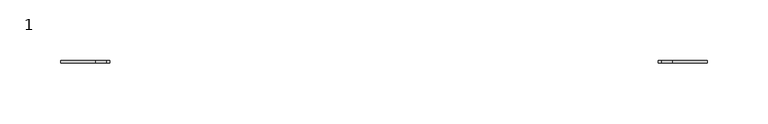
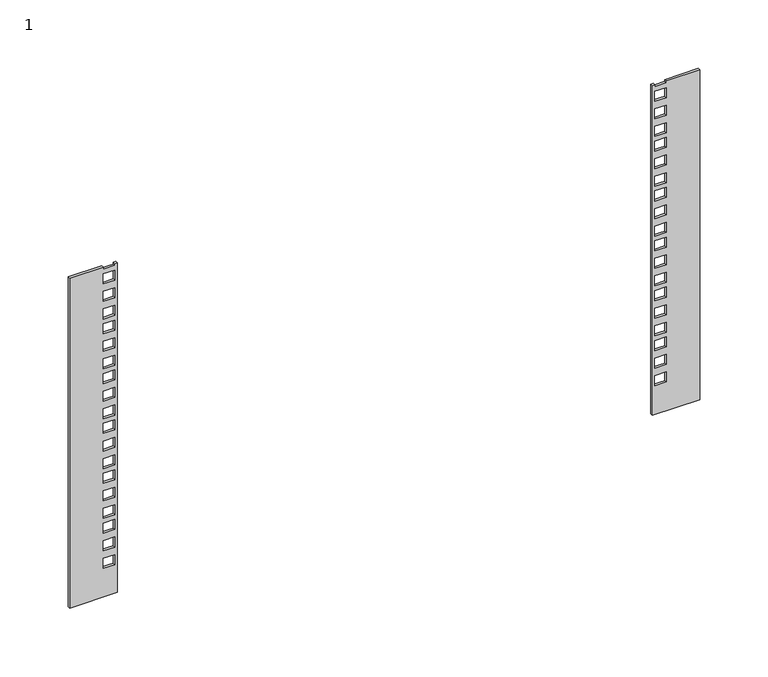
"""IFC4 building model written with IfcOpenShell, lengths in millimetres: proxy geometry, 1 : 6U 600мм стеклянная дверь."""

from ifc_helpers import new_model, si_unit, frame, origin, place, context, project, spatial, polyline, outline, extrude, source, transform, mapped, element, save


def proxy_1_e2e02f15(model_context):
    return source(origin(), model_context, "Body", "SweptSolid", [
        extrude(outline(polyline([(20.4675, 225.3), (20.4675, 265.3), (314.4675, 265.3), (314.4675, 237.05), (312.7675, 237.05), (312.7675, 227.55), (314.4675, 227.55), (314.4675, 225.3), (20.4675, 225.3)]), holes=[polyline([(55.0175, 227.55), (55.0175, 237.05), (46.0675, 237.05), (46.0675, 227.55), (55.0175, 227.55)]), polyline([(70.6675, 227.55), (70.6675, 237.05), (61.7175, 237.05), (61.7175, 227.55), (70.6675, 227.55)]), polyline([(86.3175, 227.55), (86.3175, 237.05), (77.3675, 237.05), (77.3675, 227.55), (86.3175, 227.55)]), polyline([(99.4675, 237.05), (90.5175, 237.05), (90.5175, 227.55), (99.4675, 227.55), (99.4675, 237.05)]), polyline([(115.1175, 237.05), (106.1675, 237.05), (106.1675, 227.55), (115.1175, 227.55), (115.1175, 237.05)]), polyline([(130.7675, 237.05), (121.8175, 237.05), (121.8175, 227.55), (130.7675, 227.55), (130.7675, 237.05)]), polyline([(143.9175, 237.05), (134.9675, 237.05), (134.9675, 227.55), (143.9175, 227.55), (143.9175, 237.05)]), polyline([(159.5675, 237.05), (150.6175, 237.05), (150.6175, 227.55), (159.5675, 227.55), (159.5675, 237.05)]), polyline([(175.2175, 237.05), (166.2675, 237.05), (166.2675, 227.55), (175.2175, 227.55), (175.2175, 237.05)]), polyline([(188.3675, 237.05), (179.4175, 237.05), (179.4175, 227.55), (188.3675, 227.55), (188.3675, 237.05)]), polyline([(204.0175, 237.05), (195.0675, 237.05), (195.0675, 227.55), (204.0175, 227.55), (204.0175, 237.05)]), polyline([(219.6675, 237.05), (210.7175, 237.05), (210.7175, 227.55), (219.6675, 227.55), (219.6675, 237.05)]), polyline([(232.8175, 237.05), (223.8675, 237.05), (223.8675, 227.55), (232.8175, 227.55), (232.8175, 237.05)]), polyline([(248.4675, 237.05), (239.5175, 237.05), (239.5175, 227.55), (248.4675, 227.55), (248.4675, 237.05)]), polyline([(264.1175, 237.05), (255.1675, 237.05), (255.1675, 227.55), (264.1175, 227.55), (264.1175, 237.05)]), polyline([(277.2675, 237.05), (268.3175, 237.05), (268.3175, 227.55), (277.2675, 227.55), (277.2675, 237.05)]), polyline([(292.9175, 237.05), (283.9675, 237.05), (283.9675, 227.55), (292.9175, 227.55), (292.9175, 237.05)]), polyline([(308.5675, 237.05), (299.6175, 237.05), (299.6175, 227.55), (308.5675, 227.55), (308.5675, 237.05)])]), frame((0.0, -254.6777479, 0.0), z_axis=(0.0, 1.0, 0.0), x_axis=(0.0, 0.0, 1.0)), (0.0, 0.0, 1.0), 2.0),
        extrude(outline(polyline([(20.4675, -265.7), (20.4675, -225.7), (314.4675, -225.7), (314.4675, -227.95), (312.7675, -227.95), (312.7675, -237.45), (314.4675, -237.45), (314.4675, -265.7), (20.4675, -265.7)]), holes=[polyline([(55.0175, -237.45), (55.0175, -227.95), (46.0675, -227.95), (46.0675, -237.45), (55.0175, -237.45)]), polyline([(70.6675, -237.45), (70.6675, -227.95), (61.7175, -227.95), (61.7175, -237.45), (70.6675, -237.45)]), polyline([(86.3175, -237.45), (86.3175, -227.95), (77.3675, -227.95), (77.3675, -237.45), (86.3175, -237.45)]), polyline([(90.5175, -237.45), (99.4675, -237.45), (99.4675, -227.95), (90.5175, -227.95), (90.5175, -237.45)]), polyline([(106.1675, -237.45), (115.1175, -237.45), (115.1175, -227.95), (106.1675, -227.95), (106.1675, -237.45)]), polyline([(121.8175, -237.45), (130.7675, -237.45), (130.7675, -227.95), (121.8175, -227.95), (121.8175, -237.45)]), polyline([(134.9675, -237.45), (143.9175, -237.45), (143.9175, -227.95), (134.9675, -227.95), (134.9675, -237.45)]), polyline([(150.6175, -237.45), (159.5675, -237.45), (159.5675, -227.95), (150.6175, -227.95), (150.6175, -237.45)]), polyline([(166.2675, -237.45), (175.2175, -237.45), (175.2175, -227.95), (166.2675, -227.95), (166.2675, -237.45)]), polyline([(179.4175, -237.45), (188.3675, -237.45), (188.3675, -227.95), (179.4175, -227.95), (179.4175, -237.45)]), polyline([(195.0675, -237.45), (204.0175, -237.45), (204.0175, -227.95), (195.0675, -227.95), (195.0675, -237.45)]), polyline([(210.7175, -237.45), (219.6675, -237.45), (219.6675, -227.95), (210.7175, -227.95), (210.7175, -237.45)]), polyline([(223.8675, -237.45), (232.8175, -237.45), (232.8175, -227.95), (223.8675, -227.95), (223.8675, -237.45)]), polyline([(239.5175, -237.45), (248.4675, -237.45), (248.4675, -227.95), (239.5175, -227.95), (239.5175, -237.45)]), polyline([(255.1675, -237.45), (264.1175, -237.45), (264.1175, -227.95), (255.1675, -227.95), (255.1675, -237.45)]), polyline([(268.3175, -237.45), (277.2675, -237.45), (277.2675, -227.95), (268.3175, -227.95), (268.3175, -237.45)]), polyline([(283.9675, -237.45), (292.9175, -237.45), (292.9175, -227.95), (283.9675, -227.95), (283.9675, -237.45)]), polyline([(299.6175, -237.45), (308.5675, -237.45), (308.5675, -227.95), (299.6175, -227.95), (299.6175, -237.45)])]), frame((0.0, -254.6777479, 0.0), z_axis=(0.0, 1.0, 0.0), x_axis=(0.0, 0.0, 1.0)), (0.0, 0.0, 1.0), 2.0),
    ])


if __name__ == "__main__":
    model = new_model("IFC4")
    model_context = context("Model", 3, world=origin())
    ifc_project = project(units=[si_unit("LENGTHUNIT", "METRE", prefix="MILLI")], contexts=[model_context])
    site = spatial("IfcSite", under=ifc_project)
    building = spatial("IfcBuilding", under=site)
    placement = place(None, origin())
    proxy_1_shape = proxy_1_e2e02f15(model_context)
    element("IfcBuildingElementProxy", 1, Name="1 : 6U 600мм стеклянная дверь", ObjectType="1 : 6U 600мм стеклянная дверь", at=placement, inside=building, context=model_context, shape_type="MappedRepresentation", body=[
        mapped(proxy_1_shape, transform((0.0, 0.0, 0.0), x_axis=(1.0, 0.0, 0.0), y_axis=(0.0, 1.0, 0.0), z_axis=(0.0, 0.0, 1.0))),
    ])
    save(model, "model.ifc")
